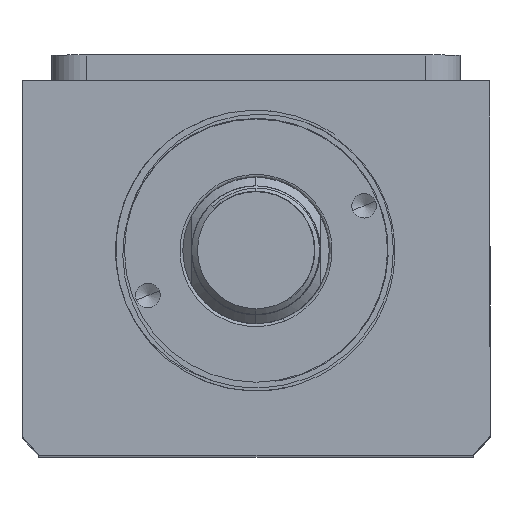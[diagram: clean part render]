
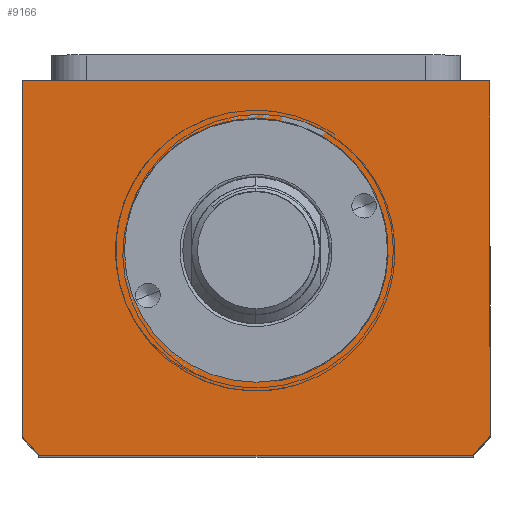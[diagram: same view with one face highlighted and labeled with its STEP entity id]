
A CAD part, top view. The second image highlights one B-rep face of the part: STEP entity #9166.
In plain terms, the highlighted planar face has unit normal (0, 0, 1).
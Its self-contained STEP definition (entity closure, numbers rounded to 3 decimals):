
#94 = DIRECTION ( 'NONE',  ( 0., 1., 0. ) ) ;
#905 = DIRECTION ( 'NONE',  ( 1., 0., 0. ) ) ;
#933 = DIRECTION ( 'NONE',  ( 1., 0., 0. ) ) ;
#951 = VERTEX_POINT ( 'NONE', #2338 ) ;
#1485 = CARTESIAN_POINT ( 'NONE',  ( -22.5, -40.507, 165. ) ) ;
#1515 = EDGE_CURVE ( 'NONE', #6449, #14580, #5960, .T. ) ;
#1557 = VERTEX_POINT ( 'NONE', #5682 ) ;
#1956 = VECTOR ( 'NONE', #94, 1000. ) ;
#2338 = CARTESIAN_POINT ( 'NONE',  ( 37.094, -75.507, 165. ) ) ;
#2786 = CARTESIAN_POINT ( 'NONE',  ( 40., -11.507, 165. ) ) ;
#3205 = LINE ( 'NONE', #13521, #13206 ) ;
#3227 = CIRCLE ( 'NONE', #6843, 51. ) ;
#3328 = EDGE_CURVE ( 'NONE', #10390, #8015, #3205, .T. ) ;
#3664 = AXIS2_PLACEMENT_3D ( 'NONE', #5892, #15350, #7236 ) ;
#3727 = DIRECTION ( 'NONE',  ( 0., 0., 1. ) ) ;
#4008 = DIRECTION ( 'NONE',  ( -1., 0., 0. ) ) ;
#4257 = ORIENTED_EDGE ( 'NONE', *, *, #12275, .T. ) ;
#4346 = ORIENTED_EDGE ( 'NONE', *, *, #1515, .F. ) ;
#4369 = FACE_BOUND ( 'NONE', #9288, .T. ) ;
#4428 = CIRCLE ( 'NONE', #11193, 51. ) ;
#4504 = PLANE ( 'NONE',  #3664 ) ;
#5227 = ORIENTED_EDGE ( 'NONE', *, *, #11189, .T. ) ;
#5350 = CARTESIAN_POINT ( 'NONE',  ( 40., -11.507, 165. ) ) ;
#5682 = CARTESIAN_POINT ( 'NONE',  ( -40., -72.145, 165. ) ) ;
#5892 = CARTESIAN_POINT ( 'NONE',  ( 0., 0., 165. ) ) ;
#5960 = CIRCLE ( 'NONE', #8000, 22.5 ) ;
#5994 = EDGE_CURVE ( 'NONE', #14580, #6449, #6360, .T. ) ;
#6360 = CIRCLE ( 'NONE', #11260, 22.5 ) ;
#6411 = ORIENTED_EDGE ( 'NONE', *, *, #3328, .T. ) ;
#6449 = VERTEX_POINT ( 'NONE', #1485 ) ;
#6653 = VERTEX_POINT ( 'NONE', #10345 ) ;
#6843 = AXIS2_PLACEMENT_3D ( 'NONE', #17160, #9111, #933 ) ;
#7123 = ORIENTED_EDGE ( 'NONE', *, *, #5994, .F. ) ;
#7193 = CARTESIAN_POINT ( 'NONE',  ( -40., -11.507, 165. ) ) ;
#7236 = DIRECTION ( 'NONE',  ( 1., 0., 0. ) ) ;
#7318 = EDGE_CURVE ( 'NONE', #6653, #951, #12290, .T. ) ;
#7712 = VECTOR ( 'NONE', #16645, 1000. ) ;
#8000 = AXIS2_PLACEMENT_3D ( 'NONE', #9020, #8967, #8908 ) ;
#8015 = VERTEX_POINT ( 'NONE', #12729 ) ;
#8757 = ORIENTED_EDGE ( 'NONE', *, *, #10442, .T. ) ;
#8908 = DIRECTION ( 'NONE',  ( 1., 0., 0. ) ) ;
#8967 = DIRECTION ( 'NONE',  ( 0., 0., 1. ) ) ;
#9020 = CARTESIAN_POINT ( 'NONE',  ( 0., -40.507, 165. ) ) ;
#9076 = DIRECTION ( 'NONE',  ( 0., 0., 1. ) ) ;
#9091 = ORIENTED_EDGE ( 'NONE', *, *, #7318, .T. ) ;
#9111 = DIRECTION ( 'NONE',  ( 0., 0., 1. ) ) ;
#9166 = ADVANCED_FACE ( 'NONE', ( #4369, #14375 ), #4504, .T. ) ;
#9246 = LINE ( 'NONE', #2786, #1956 ) ;
#9288 = EDGE_LOOP ( 'NONE', ( #7123, #4346 ) ) ;
#10044 = CARTESIAN_POINT ( 'NONE',  ( 22.5, -40.507, 165. ) ) ;
#10345 = CARTESIAN_POINT ( 'NONE',  ( -37.094, -75.507, 165. ) ) ;
#10390 = VERTEX_POINT ( 'NONE', #5350 ) ;
#10442 = EDGE_CURVE ( 'NONE', #17263, #10390, #9246, .T. ) ;
#11189 = EDGE_CURVE ( 'NONE', #8015, #1557, #11314, .T. ) ;
#11193 = AXIS2_PLACEMENT_3D ( 'NONE', #17130, #9076, #905 ) ;
#11260 = AXIS2_PLACEMENT_3D ( 'NONE', #11885, #3727, #13235 ) ;
#11314 = LINE ( 'NONE', #7193, #7712 ) ;
#11873 = VECTOR ( 'NONE', #13270, 1000. ) ;
#11885 = CARTESIAN_POINT ( 'NONE',  ( 0., -40.507, 165. ) ) ;
#12275 = EDGE_CURVE ( 'NONE', #951, #17263, #4428, .T. ) ;
#12290 = LINE ( 'NONE', #17376, #11873 ) ;
#12729 = CARTESIAN_POINT ( 'NONE',  ( -40., -11.507, 165. ) ) ;
#13206 = VECTOR ( 'NONE', #4008, 1000. ) ;
#13235 = DIRECTION ( 'NONE',  ( 1., 0., 0. ) ) ;
#13270 = DIRECTION ( 'NONE',  ( 1., 0., 0. ) ) ;
#13521 = CARTESIAN_POINT ( 'NONE',  ( -40., -11.507, 165. ) ) ;
#14375 = FACE_OUTER_BOUND ( 'NONE', #16310, .T. ) ;
#14580 = VERTEX_POINT ( 'NONE', #10044 ) ;
#14983 = ORIENTED_EDGE ( 'NONE', *, *, #17451, .T. ) ;
#15342 = CARTESIAN_POINT ( 'NONE',  ( 40., -72.145, 165. ) ) ;
#15350 = DIRECTION ( 'NONE',  ( 0., 0., 1. ) ) ;
#16310 = EDGE_LOOP ( 'NONE', ( #5227, #14983, #9091, #4257, #8757, #6411 ) ) ;
#16645 = DIRECTION ( 'NONE',  ( 0., -1., 0. ) ) ;
#17130 = CARTESIAN_POINT ( 'NONE',  ( 0., -40.507, 165. ) ) ;
#17160 = CARTESIAN_POINT ( 'NONE',  ( 0., -40.507, 165. ) ) ;
#17263 = VERTEX_POINT ( 'NONE', #15342 ) ;
#17376 = CARTESIAN_POINT ( 'NONE',  ( -40., -75.507, 165. ) ) ;
#17451 = EDGE_CURVE ( 'NONE', #1557, #6653, #3227, .T. ) ;
